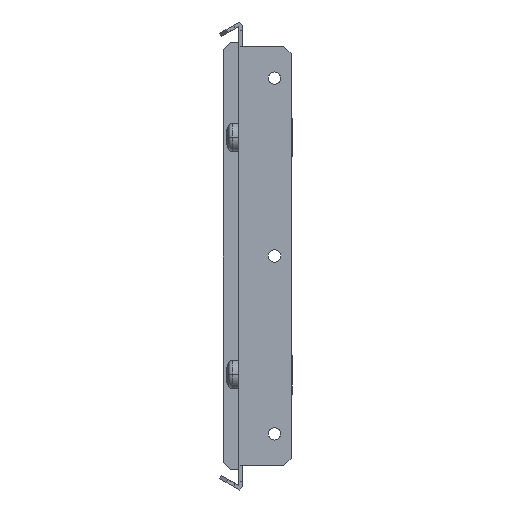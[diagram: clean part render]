
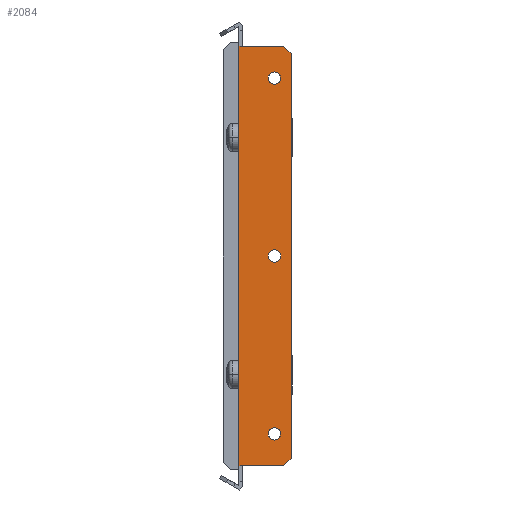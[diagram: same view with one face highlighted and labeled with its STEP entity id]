
A CAD part, front view. The second image highlights one B-rep face of the part: STEP entity #2084.
In plain terms, the highlighted planar face has unit normal (0, -1, 0).
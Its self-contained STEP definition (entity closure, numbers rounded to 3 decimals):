
#41 = EDGE_CURVE ( 'NONE', #5394, #7554, #6160, .T. ) ;
#109 = CARTESIAN_POINT ( 'NONE',  ( 9.4, -2.5, 0. ) ) ;
#163 = DIRECTION ( 'NONE',  ( -1., 0., 0. ) ) ;
#198 = CARTESIAN_POINT ( 'NONE',  ( -3., -2.5, 88.5 ) ) ;
#212 = VECTOR ( 'NONE', #531, 1000. ) ;
#227 = VERTEX_POINT ( 'NONE', #109 ) ;
#243 = DIRECTION ( 'NONE',  ( 1., 0., 0. ) ) ;
#369 = ORIENTED_EDGE ( 'NONE', *, *, #6719, .F. ) ;
#440 = PLANE ( 'NONE',  #6394 ) ;
#531 = DIRECTION ( 'NONE',  ( -1., 0., 0. ) ) ;
#540 = CARTESIAN_POINT ( 'NONE',  ( 14.6, -2.5, 75. ) ) ;
#654 = CARTESIAN_POINT ( 'NONE',  ( -3., -2.5, 0. ) ) ;
#692 = LINE ( 'NONE', #4908, #8431 ) ;
#705 = CARTESIAN_POINT ( 'NONE',  ( -3., -2.5, -88.5 ) ) ;
#732 = VECTOR ( 'NONE', #3203, 1000. ) ;
#1020 = EDGE_CURVE ( 'NONE', #7348, #4529, #3977, .T. ) ;
#1062 = DIRECTION ( 'NONE',  ( 0.707, 0., 0.707 ) ) ;
#1140 = CARTESIAN_POINT ( 'NONE',  ( 0., -2.5, -88.5 ) ) ;
#1284 = VERTEX_POINT ( 'NONE', #7721 ) ;
#1358 = ORIENTED_EDGE ( 'NONE', *, *, #2407, .T. ) ;
#1363 = CIRCLE ( 'NONE', #8644, 2.6 ) ;
#1394 = CARTESIAN_POINT ( 'NONE',  ( 14.6, -2.5, 0. ) ) ;
#1465 = ORIENTED_EDGE ( 'NONE', *, *, #4043, .T. ) ;
#1506 = CARTESIAN_POINT ( 'NONE',  ( 14.6, -2.5, -75. ) ) ;
#1615 = VERTEX_POINT ( 'NONE', #6417 ) ;
#1944 = AXIS2_PLACEMENT_3D ( 'NONE', #6621, #4514, #7915 ) ;
#1953 = VECTOR ( 'NONE', #243, 1000. ) ;
#2066 = DIRECTION ( 'NONE',  ( 0., 1., 0. ) ) ;
#2077 = ORIENTED_EDGE ( 'NONE', *, *, #4534, .F. ) ;
#2084 = ADVANCED_FACE ( 'NONE', ( #3275, #7926, #4621, #3804 ), #440, .F. ) ;
#2234 = AXIS2_PLACEMENT_3D ( 'NONE', #7964, #8578, #2549 ) ;
#2307 = VECTOR ( 'NONE', #7178, 1000. ) ;
#2344 = AXIS2_PLACEMENT_3D ( 'NONE', #5590, #6350, #163 ) ;
#2399 = LINE ( 'NONE', #1140, #1953 ) ;
#2407 = EDGE_CURVE ( 'NONE', #5394, #8191, #2399, .T. ) ;
#2408 = CARTESIAN_POINT ( 'NONE',  ( 19., -2.5, -85.5 ) ) ;
#2436 = LINE ( 'NONE', #3108, #2307 ) ;
#2476 = EDGE_CURVE ( 'NONE', #8255, #1284, #3416, .T. ) ;
#2549 = DIRECTION ( 'NONE',  ( 1., 0., 0. ) ) ;
#2574 = CARTESIAN_POINT ( 'NONE',  ( 16., -2.5, 88.5 ) ) ;
#2629 = CARTESIAN_POINT ( 'NONE',  ( -0.5, -2.5, -88.5 ) ) ;
#2688 = ORIENTED_EDGE ( 'NONE', *, *, #5749, .F. ) ;
#2804 = CIRCLE ( 'NONE', #1944, 2.6 ) ;
#2999 = CARTESIAN_POINT ( 'NONE',  ( 19., -2.5, 85.5 ) ) ;
#3069 = ORIENTED_EDGE ( 'NONE', *, *, #4406, .T. ) ;
#3108 = CARTESIAN_POINT ( 'NONE',  ( 16., -2.5, 88.5 ) ) ;
#3203 = DIRECTION ( 'NONE',  ( 0., 0., -1. ) ) ;
#3275 = FACE_BOUND ( 'NONE', #5962, .T. ) ;
#3416 = CIRCLE ( 'NONE', #7990, 2.6 ) ;
#3541 = CARTESIAN_POINT ( 'NONE',  ( -0.5, -2.5, 88.5 ) ) ;
#3632 = DIRECTION ( 'NONE',  ( 0., -1., 0. ) ) ;
#3804 = FACE_OUTER_BOUND ( 'NONE', #4805, .T. ) ;
#3831 = VERTEX_POINT ( 'NONE', #2574 ) ;
#3932 = CARTESIAN_POINT ( 'NONE',  ( -0.5, -2.5, 88.5 ) ) ;
#3951 = VECTOR ( 'NONE', #1062, 1000. ) ;
#3977 = LINE ( 'NONE', #4070, #4749 ) ;
#4004 = LINE ( 'NONE', #654, #732 ) ;
#4043 = EDGE_CURVE ( 'NONE', #3831, #6635, #692, .T. ) ;
#4070 = CARTESIAN_POINT ( 'NONE',  ( 19., -2.5, 0. ) ) ;
#4222 = EDGE_LOOP ( 'NONE', ( #369, #4857 ) ) ;
#4331 = ORIENTED_EDGE ( 'NONE', *, *, #1020, .T. ) ;
#4362 = EDGE_CURVE ( 'NONE', #4529, #3831, #2436, .T. ) ;
#4406 = EDGE_CURVE ( 'NONE', #6984, #7554, #4004, .T. ) ;
#4514 = DIRECTION ( 'NONE',  ( 0., -1., 0. ) ) ;
#4529 = VERTEX_POINT ( 'NONE', #2999 ) ;
#4534 = EDGE_CURVE ( 'NONE', #1284, #8255, #5719, .T. ) ;
#4588 = AXIS2_PLACEMENT_3D ( 'NONE', #6449, #3632, #8380 ) ;
#4621 = FACE_BOUND ( 'NONE', #4222, .T. ) ;
#4749 = VECTOR ( 'NONE', #5990, 1000. ) ;
#4805 = EDGE_LOOP ( 'NONE', ( #1358, #7192, #4331, #6573, #1465, #8288, #3069, #6139 ) ) ;
#4818 = CARTESIAN_POINT ( 'NONE',  ( 16., -2.5, -88.5 ) ) ;
#4857 = ORIENTED_EDGE ( 'NONE', *, *, #6783, .F. ) ;
#4908 = CARTESIAN_POINT ( 'NONE',  ( 0., -2.5, 88.5 ) ) ;
#5044 = VERTEX_POINT ( 'NONE', #1394 ) ;
#5145 = EDGE_CURVE ( 'NONE', #5044, #227, #6487, .T. ) ;
#5149 = DIRECTION ( 'NONE',  ( 1., 0., 0. ) ) ;
#5304 = ORIENTED_EDGE ( 'NONE', *, *, #5145, .F. ) ;
#5362 = CARTESIAN_POINT ( 'NONE',  ( 0., -2.5, -88.5 ) ) ;
#5394 = VERTEX_POINT ( 'NONE', #2629 ) ;
#5440 = DIRECTION ( 'NONE',  ( 0., -1., 0. ) ) ;
#5590 = CARTESIAN_POINT ( 'NONE',  ( 12., -2.5, 0. ) ) ;
#5719 = CIRCLE ( 'NONE', #4588, 2.6 ) ;
#5749 = EDGE_CURVE ( 'NONE', #227, #5044, #1363, .T. ) ;
#5782 = DIRECTION ( 'NONE',  ( -1., 0., 0. ) ) ;
#5786 = CIRCLE ( 'NONE', #2234, 2.6 ) ;
#5962 = EDGE_LOOP ( 'NONE', ( #2688, #5304 ) ) ;
#5989 = CARTESIAN_POINT ( 'NONE',  ( 19., -2.5, -85.5 ) ) ;
#5990 = DIRECTION ( 'NONE',  ( 0., 0., 1. ) ) ;
#6034 = LINE ( 'NONE', #2408, #3951 ) ;
#6139 = ORIENTED_EDGE ( 'NONE', *, *, #41, .F. ) ;
#6160 = LINE ( 'NONE', #5362, #6440 ) ;
#6166 = LINE ( 'NONE', #3932, #212 ) ;
#6201 = DIRECTION ( 'NONE',  ( -1., 0., 0. ) ) ;
#6289 = CARTESIAN_POINT ( 'NONE',  ( 12., -2.5, 0. ) ) ;
#6350 = DIRECTION ( 'NONE',  ( 0., -1., 0. ) ) ;
#6394 = AXIS2_PLACEMENT_3D ( 'NONE', #8688, #2066, #5149 ) ;
#6417 = CARTESIAN_POINT ( 'NONE',  ( 9.4, -2.5, 75. ) ) ;
#6440 = VECTOR ( 'NONE', #8792, 1000. ) ;
#6449 = CARTESIAN_POINT ( 'NONE',  ( 12., -2.5, -75. ) ) ;
#6476 = VERTEX_POINT ( 'NONE', #540 ) ;
#6487 = CIRCLE ( 'NONE', #2344, 2.6 ) ;
#6573 = ORIENTED_EDGE ( 'NONE', *, *, #4362, .T. ) ;
#6621 = CARTESIAN_POINT ( 'NONE',  ( 12., -2.5, 75. ) ) ;
#6635 = VERTEX_POINT ( 'NONE', #3541 ) ;
#6719 = EDGE_CURVE ( 'NONE', #6476, #1615, #5786, .T. ) ;
#6783 = EDGE_CURVE ( 'NONE', #1615, #6476, #2804, .T. ) ;
#6883 = EDGE_CURVE ( 'NONE', #6635, #6984, #6166, .T. ) ;
#6984 = VERTEX_POINT ( 'NONE', #198 ) ;
#6997 = DIRECTION ( 'NONE',  ( 0., -1., 0. ) ) ;
#7178 = DIRECTION ( 'NONE',  ( -0.707, 0., 0.707 ) ) ;
#7192 = ORIENTED_EDGE ( 'NONE', *, *, #7491, .T. ) ;
#7315 = CARTESIAN_POINT ( 'NONE',  ( 12., -2.5, -75. ) ) ;
#7348 = VERTEX_POINT ( 'NONE', #5989 ) ;
#7471 = ORIENTED_EDGE ( 'NONE', *, *, #2476, .F. ) ;
#7491 = EDGE_CURVE ( 'NONE', #8191, #7348, #6034, .T. ) ;
#7554 = VERTEX_POINT ( 'NONE', #705 ) ;
#7721 = CARTESIAN_POINT ( 'NONE',  ( 9.4, -2.5, -75. ) ) ;
#7915 = DIRECTION ( 'NONE',  ( 1., 0., 0. ) ) ;
#7926 = FACE_BOUND ( 'NONE', #7957, .T. ) ;
#7957 = EDGE_LOOP ( 'NONE', ( #7471, #2077 ) ) ;
#7964 = CARTESIAN_POINT ( 'NONE',  ( 12., -2.5, 75. ) ) ;
#7990 = AXIS2_PLACEMENT_3D ( 'NONE', #7315, #5440, #8172 ) ;
#8172 = DIRECTION ( 'NONE',  ( -1., 0., 0. ) ) ;
#8191 = VERTEX_POINT ( 'NONE', #4818 ) ;
#8255 = VERTEX_POINT ( 'NONE', #1506 ) ;
#8288 = ORIENTED_EDGE ( 'NONE', *, *, #6883, .T. ) ;
#8380 = DIRECTION ( 'NONE',  ( -1., 0., 0. ) ) ;
#8431 = VECTOR ( 'NONE', #6201, 1000. ) ;
#8578 = DIRECTION ( 'NONE',  ( 0., -1., 0. ) ) ;
#8644 = AXIS2_PLACEMENT_3D ( 'NONE', #6289, #6997, #5782 ) ;
#8688 = CARTESIAN_POINT ( 'NONE',  ( 0., -2.5, 0. ) ) ;
#8792 = DIRECTION ( 'NONE',  ( -1., 0., 0. ) ) ;
